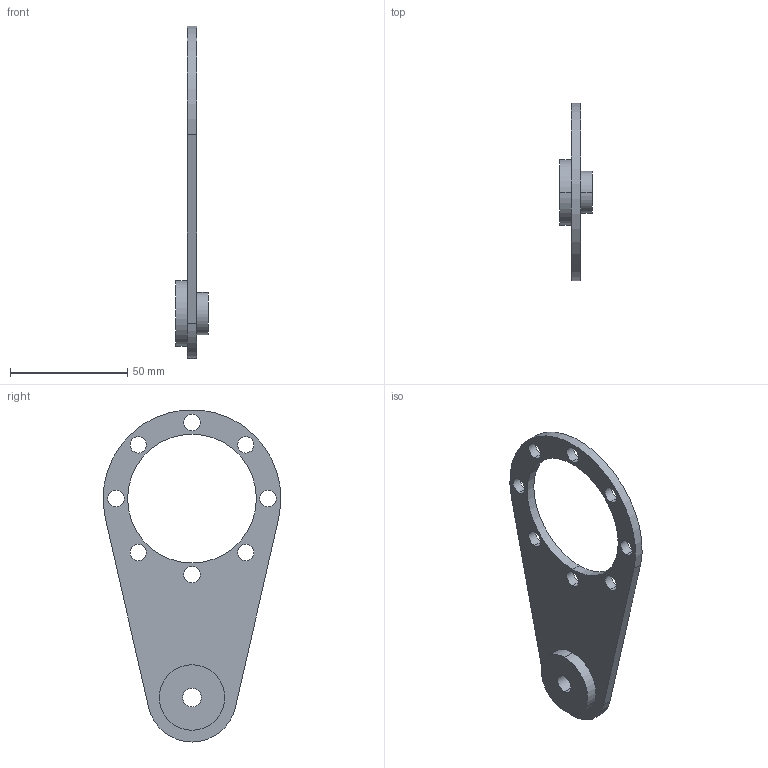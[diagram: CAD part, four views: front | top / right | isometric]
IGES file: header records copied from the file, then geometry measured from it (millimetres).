
Start section:  PTC IGES file: TAB30.igs
Global section: file name: TAB30.igs; native system: Pro/ENGINEER by Parametric Technology Corporation; preprocessor: 2011490; author: atrevisan; organization: Unknown; date: 20130827.184913; units: millimetre
Bounding box: 14 x 75.89 x 141.86 mm (x, y, z)
Volume: 24119.9 mm3; surface area: 14018.4 mm2
Topology: 1 solids, 1 shells, 32 faces, 84 edges, 56 vertices
Faces by surface type: revolution 26, bspline 6
